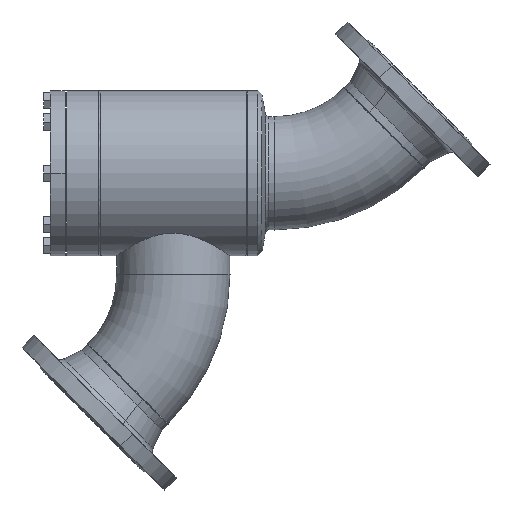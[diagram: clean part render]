
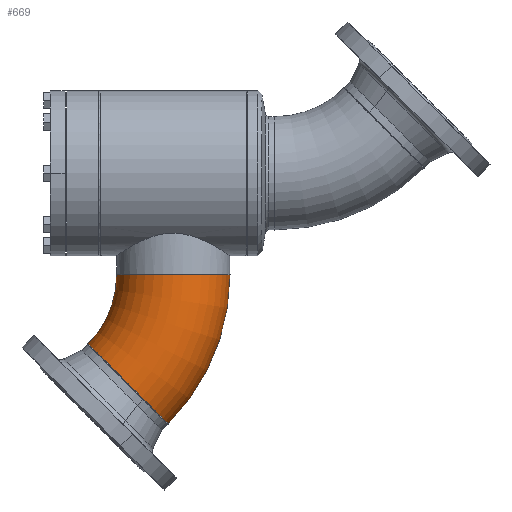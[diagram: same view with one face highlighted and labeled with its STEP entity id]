
A CAD part, left-side view. The second image highlights one B-rep face of the part: STEP entity #669.
In plain terms, the highlighted toroidal (fillet/blend) face has major radius 229 mm and minor radius 84.15 mm.
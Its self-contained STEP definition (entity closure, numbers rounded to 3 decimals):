
#437 = EDGE_LOOP ( 'NONE', ( #9368, #8093, #7031, #4989 ) ) ;
#495 = CARTESIAN_POINT ( 'NONE',  ( 102.424, -126.576, 0. ) ) ;
#669 = ADVANCED_FACE ( 'NONE', ( #6655 ), #6656, .T. ) ;
#799 = CARTESIAN_POINT ( 'NONE',  ( 221.43, -7.57, 0. ) ) ;
#1303 = CIRCLE ( 'NONE', #1304, 84.15 ) ;
#1304 = AXIS2_PLACEMENT_3D ( 'NONE', #1305, #1306, #1307 ) ;
#1305 = CARTESIAN_POINT ( 'NONE',  ( 161.927, -67.073, 0. ) ) ;
#1306 = DIRECTION ( 'NONE',  ( 0.707, -0.707, 0. ) ) ;
#1307 = DIRECTION ( 'NONE',  ( 0., 0., -1. ) ) ;
#2741 = CIRCLE ( 'NONE', #2742, 144.85 ) ;
#2742 = AXIS2_PLACEMENT_3D ( 'NONE', #2743, #2744, #2745 ) ;
#2743 = CARTESIAN_POINT ( 'NONE',  ( 0., -229., 0. ) ) ;
#2744 = DIRECTION ( 'NONE',  ( 0., 0., 1. ) ) ;
#2745 = DIRECTION ( 'NONE',  ( 1., 0., 0. ) ) ;
#3390 = CARTESIAN_POINT ( 'NONE',  ( 0., -84.15, 0. ) ) ;
#3765 = CIRCLE ( 'NONE', #3766, 84.15 ) ;
#3766 = AXIS2_PLACEMENT_3D ( 'NONE', #3767, #3768, #3769 ) ;
#3767 = CARTESIAN_POINT ( 'NONE',  ( 0., 0., 0. ) ) ;
#3768 = DIRECTION ( 'NONE',  ( 1., 0., 0. ) ) ;
#3769 = DIRECTION ( 'NONE',  ( 0., 0., -1. ) ) ;
#4950 = EDGE_CURVE ( 'NONE', #8590, #6457, #2741, .T. ) ;
#4989 = ORIENTED_EDGE ( 'NONE', *, *, #4950, .F. ) ;
#6457 = VERTEX_POINT ( 'NONE', #3390 ) ;
#6655 = FACE_OUTER_BOUND ( 'NONE', #437, .T. ) ;
#6656 = TOROIDAL_SURFACE ( 'NONE', #6657, 229., 84.15 ) ;
#6657 = AXIS2_PLACEMENT_3D ( 'NONE', #6658, #6659, #6660 ) ;
#6658 = CARTESIAN_POINT ( 'NONE',  ( 0., -229., 0. ) ) ;
#6659 = DIRECTION ( 'NONE',  ( 0., 0., 1. ) ) ;
#6660 = DIRECTION ( 'NONE',  ( 1., 0., 0. ) ) ;
#6669 = EDGE_CURVE ( 'NONE', #7525, #6457, #3765, .T. ) ;
#7031 = ORIENTED_EDGE ( 'NONE', *, *, #6669, .T. ) ;
#7525 = VERTEX_POINT ( 'NONE', #8482 ) ;
#7737 = EDGE_CURVE ( 'NONE', #8804, #7525, #8743, .T. ) ;
#8093 = ORIENTED_EDGE ( 'NONE', *, *, #7737, .T. ) ;
#8482 = CARTESIAN_POINT ( 'NONE',  ( 0., 84.15, 0. ) ) ;
#8590 = VERTEX_POINT ( 'NONE', #495 ) ;
#8743 = CIRCLE ( 'NONE', #8744, 313.15 ) ;
#8744 = AXIS2_PLACEMENT_3D ( 'NONE', #8745, #8749, #8750 ) ;
#8745 = CARTESIAN_POINT ( 'NONE',  ( 0., -229., 0. ) ) ;
#8749 = DIRECTION ( 'NONE',  ( 0., 0., 1. ) ) ;
#8750 = DIRECTION ( 'NONE',  ( 1., 0., 0. ) ) ;
#8804 = VERTEX_POINT ( 'NONE', #799 ) ;
#9017 = EDGE_CURVE ( 'NONE', #8804, #8590, #1303, .T. ) ;
#9368 = ORIENTED_EDGE ( 'NONE', *, *, #9017, .F. ) ;
